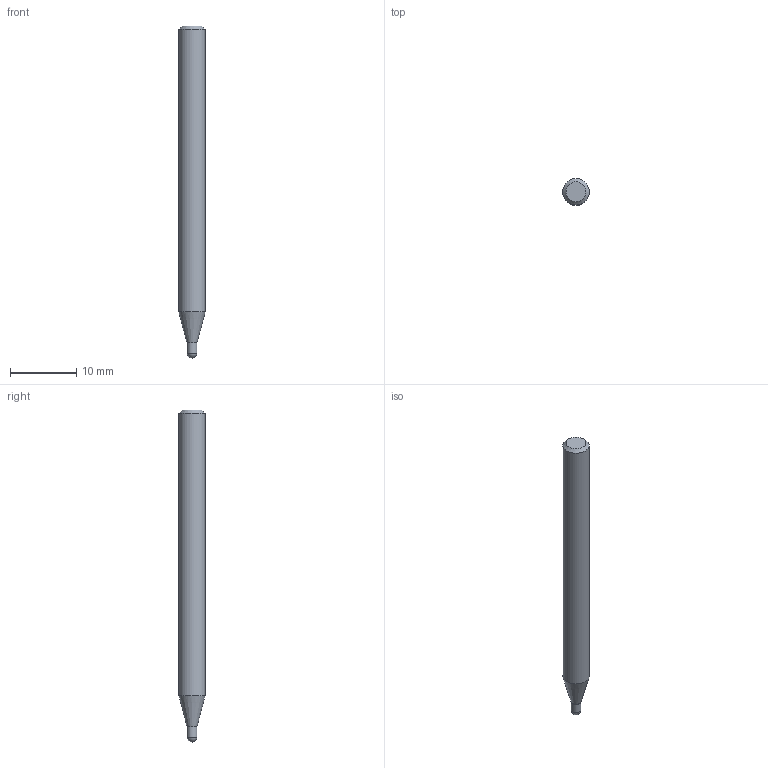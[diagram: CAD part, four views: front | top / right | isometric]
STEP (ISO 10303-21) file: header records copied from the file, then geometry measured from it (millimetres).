
FILE_DESCRIPTION((''),'2;1');
FILE_NAME('C:\Users\nsx150\AppData\Local\Temp\Mastercam 2021\J4S5TCIUH2\TEMP.step','2022-01-25T17:53:48',(''),(''),'STEP Write','Mastercam 2021 ... CNC Software, Inc.','');
FILE_SCHEMA(('AUTOMOTIVE_DESIGN'));
Length unit declared in the file: millimetre
Products named in the file (1): None
Bounding box: 4 x 4 x 50 mm (x, y, z)
Volume: 572.6 mm3; surface area: 605.5 mm2
Topology: 2 solids, 2 shells, 8 faces, 12 edges, 7 vertices
Faces by surface type: plane 3, cylinder 2, cone 2, sphere 1
Full cylindrical faces by diameter (mm): 1.5 x1, 4 x1
Entity records: 190 total; most frequent: DIRECTION 32, CARTESIAN_POINT 22, AXIS2_PLACEMENT_3D 16, ORIENTED_EDGE 12, EDGE_LOOP 12, STYLED_ITEM 11, ADVANCED_FACE 8, VERTEX_POINT 6
